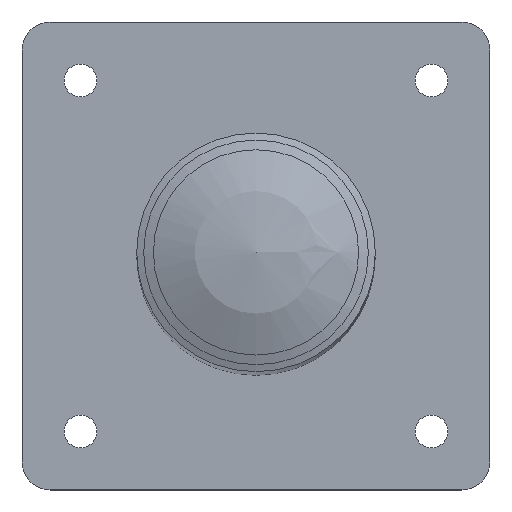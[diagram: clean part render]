
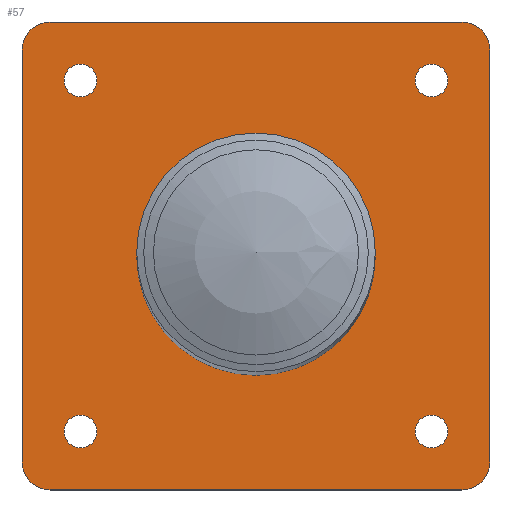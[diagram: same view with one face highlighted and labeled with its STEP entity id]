
A CAD part, top view. The second image highlights one B-rep face of the part: STEP entity #57.
In plain terms, the highlighted planar face has unit normal (0, 0, 1).
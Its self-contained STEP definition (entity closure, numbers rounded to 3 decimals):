
#21 = EDGE_CURVE('',#22,#24,#26,.T.);
#22 = VERTEX_POINT('',#23);
#23 = CARTESIAN_POINT('',(-100.,-88.,8.));
#24 = VERTEX_POINT('',#25);
#25 = CARTESIAN_POINT('',(-100.,88.,8.));
#26 = LINE('',#27,#28);
#27 = CARTESIAN_POINT('',(-100.,-100.,8.));
#28 = VECTOR('',#29,1.);
#29 = DIRECTION('',(0.,1.,0.));
#57 = ADVANCED_FACE('',(#58,#119,#130,#141,#152,#163),#174,.T.);
#58 = FACE_BOUND('',#59,.T.);
#59 = EDGE_LOOP('',(#60,#61,#70,#78,#87,#95,#104,#112));
#60 = ORIENTED_EDGE('',*,*,#21,.F.);
#61 = ORIENTED_EDGE('',*,*,#62,.T.);
#62 = EDGE_CURVE('',#22,#63,#65,.T.);
#63 = VERTEX_POINT('',#64);
#64 = CARTESIAN_POINT('',(-88.,-100.,8.));
#65 = CIRCLE('',#66,12.);
#66 = AXIS2_PLACEMENT_3D('',#67,#68,#69);
#67 = CARTESIAN_POINT('',(-88.,-88.,8.));
#68 = DIRECTION('',(-0.,0.,1.));
#69 = DIRECTION('',(0.,-1.,0.));
#70 = ORIENTED_EDGE('',*,*,#71,.T.);
#71 = EDGE_CURVE('',#63,#72,#74,.T.);
#72 = VERTEX_POINT('',#73);
#73 = CARTESIAN_POINT('',(88.,-100.,8.));
#74 = LINE('',#75,#76);
#75 = CARTESIAN_POINT('',(-100.,-100.,8.));
#76 = VECTOR('',#77,1.);
#77 = DIRECTION('',(1.,0.,0.));
#78 = ORIENTED_EDGE('',*,*,#79,.F.);
#79 = EDGE_CURVE('',#80,#72,#82,.T.);
#80 = VERTEX_POINT('',#81);
#81 = CARTESIAN_POINT('',(100.,-88.,8.));
#82 = CIRCLE('',#83,12.);
#83 = AXIS2_PLACEMENT_3D('',#84,#85,#86);
#84 = CARTESIAN_POINT('',(88.,-88.,8.));
#85 = DIRECTION('',(-0.,-0.,-1.));
#86 = DIRECTION('',(0.,-1.,0.));
#87 = ORIENTED_EDGE('',*,*,#88,.T.);
#88 = EDGE_CURVE('',#80,#89,#91,.T.);
#89 = VERTEX_POINT('',#90);
#90 = CARTESIAN_POINT('',(100.,88.,8.));
#91 = LINE('',#92,#93);
#92 = CARTESIAN_POINT('',(100.,-100.,8.));
#93 = VECTOR('',#94,1.);
#94 = DIRECTION('',(0.,1.,0.));
#95 = ORIENTED_EDGE('',*,*,#96,.T.);
#96 = EDGE_CURVE('',#89,#97,#99,.T.);
#97 = VERTEX_POINT('',#98);
#98 = CARTESIAN_POINT('',(88.,100.,8.));
#99 = CIRCLE('',#100,12.);
#100 = AXIS2_PLACEMENT_3D('',#101,#102,#103);
#101 = CARTESIAN_POINT('',(88.,88.,8.));
#102 = DIRECTION('',(-0.,0.,1.));
#103 = DIRECTION('',(0.,-1.,0.));
#104 = ORIENTED_EDGE('',*,*,#105,.F.);
#105 = EDGE_CURVE('',#106,#97,#108,.T.);
#106 = VERTEX_POINT('',#107);
#107 = CARTESIAN_POINT('',(-88.,100.,8.));
#108 = LINE('',#109,#110);
#109 = CARTESIAN_POINT('',(-100.,100.,8.));
#110 = VECTOR('',#111,1.);
#111 = DIRECTION('',(1.,0.,0.));
#112 = ORIENTED_EDGE('',*,*,#113,.F.);
#113 = EDGE_CURVE('',#24,#106,#114,.T.);
#114 = CIRCLE('',#115,12.);
#115 = AXIS2_PLACEMENT_3D('',#116,#117,#118);
#116 = CARTESIAN_POINT('',(-88.,88.,8.));
#117 = DIRECTION('',(-0.,-0.,-1.));
#118 = DIRECTION('',(0.,-1.,0.));
#119 = FACE_BOUND('',#120,.T.);
#120 = EDGE_LOOP('',(#121));
#121 = ORIENTED_EDGE('',*,*,#122,.F.);
#122 = EDGE_CURVE('',#123,#123,#125,.T.);
#123 = VERTEX_POINT('',#124);
#124 = CARTESIAN_POINT('',(-68.,-75.,8.));
#125 = CIRCLE('',#126,7.);
#126 = AXIS2_PLACEMENT_3D('',#127,#128,#129);
#127 = CARTESIAN_POINT('',(-75.,-75.,8.));
#128 = DIRECTION('',(0.,0.,1.));
#129 = DIRECTION('',(1.,0.,0.));
#130 = FACE_BOUND('',#131,.T.);
#131 = EDGE_LOOP('',(#132));
#132 = ORIENTED_EDGE('',*,*,#133,.F.);
#133 = EDGE_CURVE('',#134,#134,#136,.T.);
#134 = VERTEX_POINT('',#135);
#135 = CARTESIAN_POINT('',(82.,-75.,8.));
#136 = CIRCLE('',#137,7.);
#137 = AXIS2_PLACEMENT_3D('',#138,#139,#140);
#138 = CARTESIAN_POINT('',(75.,-75.,8.));
#139 = DIRECTION('',(0.,0.,1.));
#140 = DIRECTION('',(1.,0.,0.));
#141 = FACE_BOUND('',#142,.T.);
#142 = EDGE_LOOP('',(#143));
#143 = ORIENTED_EDGE('',*,*,#144,.F.);
#144 = EDGE_CURVE('',#145,#145,#147,.T.);
#145 = VERTEX_POINT('',#146);
#146 = CARTESIAN_POINT('',(-68.,75.,8.));
#147 = CIRCLE('',#148,7.);
#148 = AXIS2_PLACEMENT_3D('',#149,#150,#151);
#149 = CARTESIAN_POINT('',(-75.,75.,8.));
#150 = DIRECTION('',(0.,0.,1.));
#151 = DIRECTION('',(1.,0.,0.));
#152 = FACE_BOUND('',#153,.T.);
#153 = EDGE_LOOP('',(#154));
#154 = ORIENTED_EDGE('',*,*,#155,.F.);
#155 = EDGE_CURVE('',#156,#156,#158,.T.);
#156 = VERTEX_POINT('',#157);
#157 = CARTESIAN_POINT('',(51.,0.,8.));
#158 = CIRCLE('',#159,51.);
#159 = AXIS2_PLACEMENT_3D('',#160,#161,#162);
#160 = CARTESIAN_POINT('',(0.,0.,8.));
#161 = DIRECTION('',(0.,0.,1.));
#162 = DIRECTION('',(1.,0.,0.));
#163 = FACE_BOUND('',#164,.T.);
#164 = EDGE_LOOP('',(#165));
#165 = ORIENTED_EDGE('',*,*,#166,.F.);
#166 = EDGE_CURVE('',#167,#167,#169,.T.);
#167 = VERTEX_POINT('',#168);
#168 = CARTESIAN_POINT('',(82.,75.,8.));
#169 = CIRCLE('',#170,7.);
#170 = AXIS2_PLACEMENT_3D('',#171,#172,#173);
#171 = CARTESIAN_POINT('',(75.,75.,8.));
#172 = DIRECTION('',(0.,0.,1.));
#173 = DIRECTION('',(1.,0.,0.));
#174 = PLANE('',#175);
#175 = AXIS2_PLACEMENT_3D('',#176,#177,#178);
#176 = CARTESIAN_POINT('',(-100.,-100.,8.));
#177 = DIRECTION('',(0.,0.,1.));
#178 = DIRECTION('',(1.,0.,0.));
